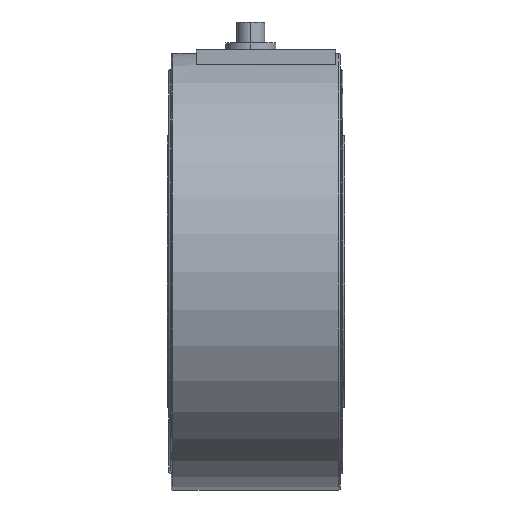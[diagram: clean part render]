
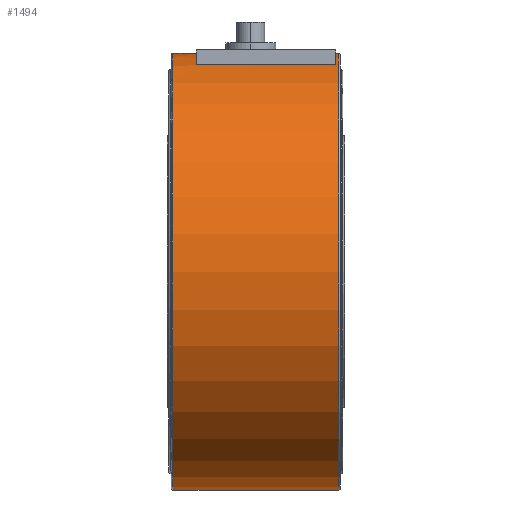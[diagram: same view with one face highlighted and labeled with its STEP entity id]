
A CAD part, left-side view. The second image highlights one B-rep face of the part: STEP entity #1494.
In plain terms, the highlighted cylindrical face has radius 79.566 mm (diameter 159.131 mm), a partial arc.
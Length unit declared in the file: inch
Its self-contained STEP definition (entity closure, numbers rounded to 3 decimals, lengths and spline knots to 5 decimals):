
#112 = AXIS2_PLACEMENT_3D ( 'NONE', #998, #964, #1000 ) ;
#114 = AXIS2_PLACEMENT_3D ( 'NONE', #1028, #1021, #1040 ) ;
#124 = AXIS2_PLACEMENT_3D ( 'NONE', #1027, #1030, #1045 ) ;
#159 = AXIS2_PLACEMENT_3D ( 'NONE', #999, #958, #990 ) ;
#168 = AXIS2_PLACEMENT_3D ( 'NONE', #979, #986, #987 ) ;
#194 = ORIENTED_EDGE ( 'NONE', *, *, #1487, .F. ) ;
#195 = ORIENTED_EDGE ( 'NONE', *, *, #1473, .F. ) ;
#233 = EDGE_LOOP ( 'NONE', ( #273, #307, #306, #244, #275, #194, #195, #277 ) ) ;
#244 = ORIENTED_EDGE ( 'NONE', *, *, #1475, .T. ) ;
#273 = ORIENTED_EDGE ( 'NONE', *, *, #1462, .F. ) ;
#275 = ORIENTED_EDGE ( 'NONE', *, *, #1432, .F. ) ;
#277 = ORIENTED_EDGE ( 'NONE', *, *, #1477, .F. ) ;
#306 = ORIENTED_EDGE ( 'NONE', *, *, #1455, .T. ) ;
#307 = ORIENTED_EDGE ( 'NONE', *, *, #1484, .T. ) ;
#547 = VERTEX_POINT ( 'NONE', #758 ) ;
#551 = VERTEX_POINT ( 'NONE', #765 ) ;
#561 = VERTEX_POINT ( 'NONE', #775 ) ;
#569 = VERTEX_POINT ( 'NONE', #754 ) ;
#570 = VERTEX_POINT ( 'NONE', #741 ) ;
#595 = VERTEX_POINT ( 'NONE', #805 ) ;
#622 = VERTEX_POINT ( 'NONE', #806 ) ;
#636 = VERTEX_POINT ( 'NONE', #839 ) ;
#741 = CARTESIAN_POINT ( 'NONE',  ( 0., 0.13174, 3.1325 ) ) ;
#754 = CARTESIAN_POINT ( 'NONE',  ( 0., 0.088, 3.1325 ) ) ;
#758 = CARTESIAN_POINT ( 'NONE',  ( 0., 2.13174, 3.1325 ) ) ;
#765 = CARTESIAN_POINT ( 'NONE',  ( 0., 0.088, -3.1325 ) ) ;
#775 = CARTESIAN_POINT ( 'NONE',  ( 0., 2.468, 3.1325 ) ) ;
#805 = CARTESIAN_POINT ( 'NONE',  ( 0., 2.468, -3.1325 ) ) ;
#806 = CARTESIAN_POINT ( 'NONE',  ( -1., 2.13174, 2.96859 ) ) ;
#839 = CARTESIAN_POINT ( 'NONE',  ( -1., 0.13174, 2.96859 ) ) ;
#857 = CARTESIAN_POINT ( 'NONE',  ( 0., 2.493, 3.1325 ) ) ;
#862 = DIRECTION ( 'NONE',  ( 0., -1., 0. ) ) ;
#920 = CARTESIAN_POINT ( 'NONE',  ( 0., 2.493, 3.1325 ) ) ;
#954 = DIRECTION ( 'NONE',  ( 0., -1., 0. ) ) ;
#955 = CARTESIAN_POINT ( 'NONE',  ( 0., 2.493, -3.1325 ) ) ;
#957 = DIRECTION ( 'NONE',  ( 0., -1., 0. ) ) ;
#958 = DIRECTION ( 'NONE',  ( 0., -1., 0. ) ) ;
#964 = DIRECTION ( 'NONE',  ( 0., -1., 0. ) ) ;
#973 = CARTESIAN_POINT ( 'NONE',  ( -1., 2.493, 2.96859 ) ) ;
#979 = CARTESIAN_POINT ( 'NONE',  ( 0., 0.088, 0. ) ) ;
#986 = DIRECTION ( 'NONE',  ( 0., 1., 0. ) ) ;
#987 = DIRECTION ( 'NONE',  ( 0., 0., 1. ) ) ;
#990 = DIRECTION ( 'NONE',  ( 0., 0., 1. ) ) ;
#996 = DIRECTION ( 'NONE',  ( 0., -1., 0. ) ) ;
#998 = CARTESIAN_POINT ( 'NONE',  ( 0., 2.468, 0. ) ) ;
#999 = CARTESIAN_POINT ( 'NONE',  ( 0., 2.13174, 0. ) ) ;
#1000 = DIRECTION ( 'NONE',  ( 0., 0., 1. ) ) ;
#1021 = DIRECTION ( 'NONE',  ( 0., 1., 0. ) ) ;
#1027 = CARTESIAN_POINT ( 'NONE',  ( 0., 2.493, 0. ) ) ;
#1028 = CARTESIAN_POINT ( 'NONE',  ( 0., 0.13174, 0. ) ) ;
#1030 = DIRECTION ( 'NONE',  ( 0., -1., 0. ) ) ;
#1040 = DIRECTION ( 'NONE',  ( 0., 0., -1. ) ) ;
#1045 = DIRECTION ( 'NONE',  ( 0., 0., -1. ) ) ;
#1232 = VECTOR ( 'NONE', #862, 39.37008 ) ;
#1257 = LINE ( 'NONE', #857, #1232 ) ;
#1268 = VECTOR ( 'NONE', #954, 39.37008 ) ;
#1282 = LINE ( 'NONE', #920, #1289 ) ;
#1289 = VECTOR ( 'NONE', #957, 39.37008 ) ;
#1301 = LINE ( 'NONE', #955, #1268 ) ;
#1314 = CIRCLE ( 'NONE', #114, 3.1325 ) ;
#1323 = CIRCLE ( 'NONE', #168, 3.1325 ) ;
#1327 = FACE_OUTER_BOUND ( 'NONE', #233, .T. ) ;
#1333 = VECTOR ( 'NONE', #996, 39.37008 ) ;
#1337 = CYLINDRICAL_SURFACE ( 'NONE', #124, 3.1325 ) ;
#1338 = LINE ( 'NONE', #973, #1333 ) ;
#1339 = CIRCLE ( 'NONE', #112, 3.1325 ) ;
#1354 = CIRCLE ( 'NONE', #159, 3.1325 ) ;
#1432 = EDGE_CURVE ( 'NONE', #570, #569, #1257, .T. ) ;
#1455 = EDGE_CURVE ( 'NONE', #595, #551, #1301, .T. ) ;
#1462 = EDGE_CURVE ( 'NONE', #561, #547, #1282, .T. ) ;
#1473 = EDGE_CURVE ( 'NONE', #622, #636, #1338, .T. ) ;
#1475 = EDGE_CURVE ( 'NONE', #551, #569, #1323, .T. ) ;
#1477 = EDGE_CURVE ( 'NONE', #547, #622, #1354, .T. ) ;
#1484 = EDGE_CURVE ( 'NONE', #561, #595, #1339, .T. ) ;
#1487 = EDGE_CURVE ( 'NONE', #636, #570, #1314, .T. ) ;
#1494 = ADVANCED_FACE ( 'NONE', ( #1327 ), #1337, .T. ) ;
